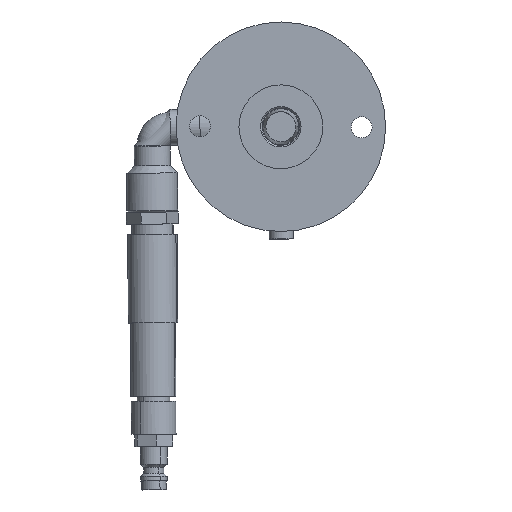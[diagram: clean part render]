
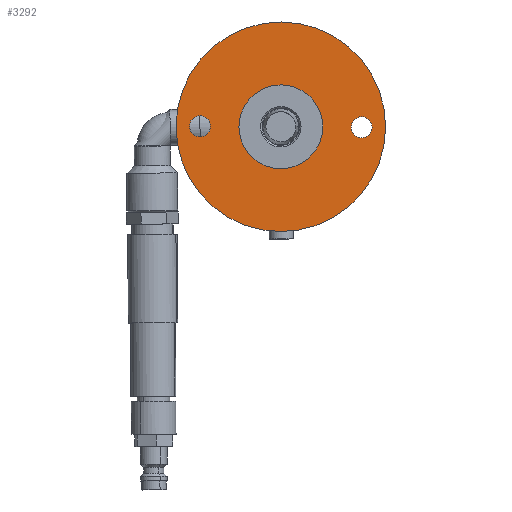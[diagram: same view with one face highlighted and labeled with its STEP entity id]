
A CAD part, front view. The second image highlights one B-rep face of the part: STEP entity #3292.
In plain terms, the highlighted planar face has unit normal (0, -1, 0) as drawn and (-1, 0, 0) by its records, which use the part's own axes.
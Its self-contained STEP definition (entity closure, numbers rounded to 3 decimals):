
#2 = CARTESIAN_POINT ( 'NONE',  ( 3., 0., 0. ) ) ;
#47 = ORIENTED_EDGE ( 'NONE', *, *, #1102, .T. ) ;
#125 = FACE_BOUND ( 'NONE', #5027, .T. ) ;
#280 = DIRECTION ( 'NONE',  ( 1., 0., 0. ) ) ;
#366 = CARTESIAN_POINT ( 'NONE',  ( 3., 27., -3.5 ) ) ;
#733 = ORIENTED_EDGE ( 'NONE', *, *, #1980, .F. ) ;
#776 = CARTESIAN_POINT ( 'NONE',  ( 3., 27., 0. ) ) ;
#1059 = CIRCLE ( 'NONE', #4858, 14. ) ;
#1102 = EDGE_CURVE ( 'NONE', #1599, #6725, #7685, .T. ) ;
#1190 = EDGE_LOOP ( 'NONE', ( #5160, #733 ) ) ;
#1242 = DIRECTION ( 'NONE',  ( 0., 0., -1. ) ) ;
#1301 = CIRCLE ( 'NONE', #2639, 3.5 ) ;
#1411 = DIRECTION ( 'NONE',  ( 0., 0., -1. ) ) ;
#1516 = CARTESIAN_POINT ( 'NONE',  ( 3., 0., 14. ) ) ;
#1532 = EDGE_CURVE ( 'NONE', #6104, #2929, #3567, .T. ) ;
#1579 = DIRECTION ( 'NONE',  ( 1., 0., 0. ) ) ;
#1584 = DIRECTION ( 'NONE',  ( 1., 0., 0. ) ) ;
#1597 = AXIS2_PLACEMENT_3D ( 'NONE', #6259, #5625, #1242 ) ;
#1599 = VERTEX_POINT ( 'NONE', #7424 ) ;
#1635 = VERTEX_POINT ( 'NONE', #4829 ) ;
#1647 = FACE_OUTER_BOUND ( 'NONE', #1190, .T. ) ;
#1651 = ORIENTED_EDGE ( 'NONE', *, *, #2332, .T. ) ;
#1932 = DIRECTION ( 'NONE',  ( 0., 0., -1. ) ) ;
#1980 = EDGE_CURVE ( 'NONE', #4727, #1635, #6014, .T. ) ;
#2156 = DIRECTION ( 'NONE',  ( 1., 0., 0. ) ) ;
#2332 = EDGE_CURVE ( 'NONE', #4302, #6625, #1301, .T. ) ;
#2470 = DIRECTION ( 'NONE',  ( 1., 0., 0. ) ) ;
#2639 = AXIS2_PLACEMENT_3D ( 'NONE', #776, #5167, #1411 ) ;
#2929 = VERTEX_POINT ( 'NONE', #5735 ) ;
#3148 = PLANE ( 'NONE',  #7878 ) ;
#3157 = AXIS2_PLACEMENT_3D ( 'NONE', #3499, #7865, #4142 ) ;
#3223 = AXIS2_PLACEMENT_3D ( 'NONE', #5899, #2156, #6528 ) ;
#3292 = ADVANCED_FACE ( 'NONE', ( #125, #4960, #8081, #1647 ), #3148, .F. ) ;
#3395 = EDGE_LOOP ( 'NONE', ( #1651, #4510 ) ) ;
#3399 = CARTESIAN_POINT ( 'NONE',  ( 3., 0., -35. ) ) ;
#3499 = CARTESIAN_POINT ( 'NONE',  ( 3., -27., 0. ) ) ;
#3538 = ORIENTED_EDGE ( 'NONE', *, *, #7437, .T. ) ;
#3567 = CIRCLE ( 'NONE', #1597, 3.5 ) ;
#3568 = CIRCLE ( 'NONE', #3157, 3.5 ) ;
#3848 = AXIS2_PLACEMENT_3D ( 'NONE', #4055, #280, #4675 ) ;
#4055 = CARTESIAN_POINT ( 'NONE',  ( 3., 27., 0. ) ) ;
#4142 = DIRECTION ( 'NONE',  ( 0., 0., -1. ) ) ;
#4302 = VERTEX_POINT ( 'NONE', #366 ) ;
#4510 = ORIENTED_EDGE ( 'NONE', *, *, #5775, .T. ) ;
#4675 = DIRECTION ( 'NONE',  ( 0., 0., -1. ) ) ;
#4727 = VERTEX_POINT ( 'NONE', #3399 ) ;
#4829 = CARTESIAN_POINT ( 'NONE',  ( 3., 0., 35. ) ) ;
#4858 = AXIS2_PLACEMENT_3D ( 'NONE', #5323, #1584, #5960 ) ;
#4929 = ORIENTED_EDGE ( 'NONE', *, *, #1532, .T. ) ;
#4960 = FACE_BOUND ( 'NONE', #3395, .T. ) ;
#5027 = EDGE_LOOP ( 'NONE', ( #4929, #5931 ) ) ;
#5160 = ORIENTED_EDGE ( 'NONE', *, *, #6675, .F. ) ;
#5167 = DIRECTION ( 'NONE',  ( 1., 0., 0. ) ) ;
#5319 = CARTESIAN_POINT ( 'NONE',  ( 3., 0., 0. ) ) ;
#5323 = CARTESIAN_POINT ( 'NONE',  ( 3., 0., 0. ) ) ;
#5568 = EDGE_CURVE ( 'NONE', #2929, #6104, #3568, .T. ) ;
#5579 = CIRCLE ( 'NONE', #3223, 35. ) ;
#5625 = DIRECTION ( 'NONE',  ( 1., 0., 0. ) ) ;
#5629 = AXIS2_PLACEMENT_3D ( 'NONE', #5319, #1579, #5949 ) ;
#5680 = DIRECTION ( 'NONE',  ( 1., 0., 0. ) ) ;
#5735 = CARTESIAN_POINT ( 'NONE',  ( 3., -27., 3.5 ) ) ;
#5775 = EDGE_CURVE ( 'NONE', #6625, #4302, #7775, .T. ) ;
#5899 = CARTESIAN_POINT ( 'NONE',  ( 3., 0., 0. ) ) ;
#5931 = ORIENTED_EDGE ( 'NONE', *, *, #5568, .T. ) ;
#5949 = DIRECTION ( 'NONE',  ( 0., 0., -1. ) ) ;
#5960 = DIRECTION ( 'NONE',  ( 0., 0., -1. ) ) ;
#6014 = CIRCLE ( 'NONE', #5629, 35. ) ;
#6104 = VERTEX_POINT ( 'NONE', #6240 ) ;
#6214 = DIRECTION ( 'NONE',  ( 0., 0., -1. ) ) ;
#6240 = CARTESIAN_POINT ( 'NONE',  ( 3., -27., -3.5 ) ) ;
#6259 = CARTESIAN_POINT ( 'NONE',  ( 3., -27., 0. ) ) ;
#6528 = DIRECTION ( 'NONE',  ( 0., 0., -1. ) ) ;
#6625 = VERTEX_POINT ( 'NONE', #7086 ) ;
#6675 = EDGE_CURVE ( 'NONE', #1635, #4727, #5579, .T. ) ;
#6680 = AXIS2_PLACEMENT_3D ( 'NONE', #6843, #2470, #6214 ) ;
#6725 = VERTEX_POINT ( 'NONE', #1516 ) ;
#6842 = EDGE_LOOP ( 'NONE', ( #3538, #47 ) ) ;
#6843 = CARTESIAN_POINT ( 'NONE',  ( 3., 0., 0. ) ) ;
#7086 = CARTESIAN_POINT ( 'NONE',  ( 3., 27., 3.5 ) ) ;
#7424 = CARTESIAN_POINT ( 'NONE',  ( 3., 0., -14. ) ) ;
#7437 = EDGE_CURVE ( 'NONE', #6725, #1599, #1059, .T. ) ;
#7685 = CIRCLE ( 'NONE', #6680, 14. ) ;
#7775 = CIRCLE ( 'NONE', #3848, 3.5 ) ;
#7865 = DIRECTION ( 'NONE',  ( 1., 0., 0. ) ) ;
#7878 = AXIS2_PLACEMENT_3D ( 'NONE', #2, #5680, #1932 ) ;
#8081 = FACE_BOUND ( 'NONE', #6842, .T. ) ;
